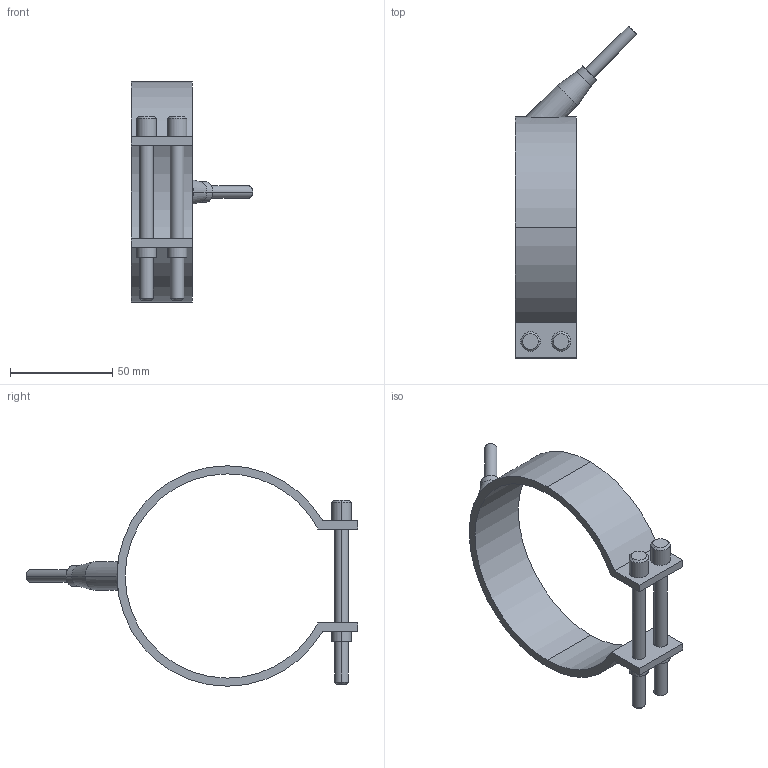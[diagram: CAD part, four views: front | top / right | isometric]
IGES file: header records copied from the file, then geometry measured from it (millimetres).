
Start section: START RECORD GO HERE.
Global section: file name: 29100030.igs; native system: DASSAULT SYSTEMES CATIA V5 R20 - www.3ds.com; preprocessor: CATIA Version 5 Release 20 ; author: Utente; organization: NB04-ASUS; date: 20210329.152107; units: millimetre
Bounding box: 59.55 x 162.55 x 108 mm (x, y, z)
Surface area: 26567.4 mm2 (no closed solid volume)
Topology: 0 solids, 0 shells, 54 faces, 242 edges, 242 vertices
Faces by surface type: revolution 38, plane 16
